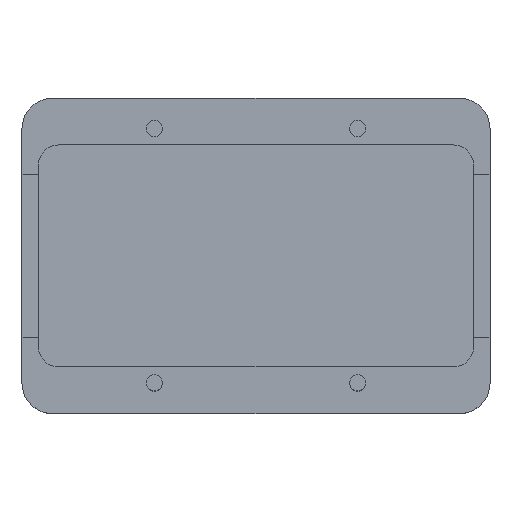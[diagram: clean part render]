
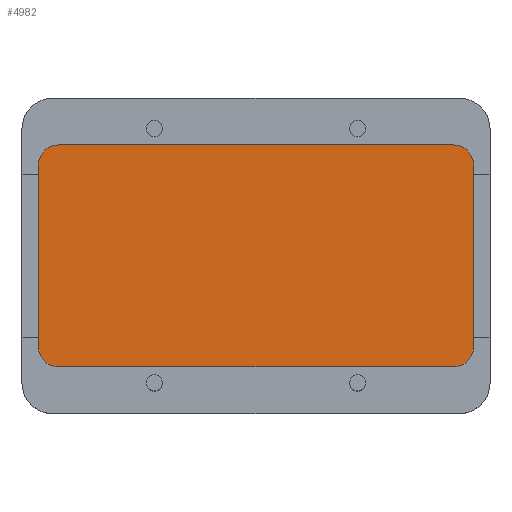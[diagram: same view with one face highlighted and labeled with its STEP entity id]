
A CAD part, top view. The second image highlights one B-rep face of the part: STEP entity #4982.
In plain terms, the highlighted planar face has unit normal (0, 0, 1).
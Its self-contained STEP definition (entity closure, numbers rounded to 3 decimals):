
#4907=CARTESIAN_POINT('',(-9.7,4.45,22.9));
#4908=DIRECTION('',(0.0,0.0,-1.0));
#4909=DIRECTION('',(-1.0,0.0,0.0));
#4910=AXIS2_PLACEMENT_3D('',#4907,#4908,#4909);
#4911=PLANE('',#4910);
#4912=CARTESIAN_POINT('',(-10.7,-4.45,22.9));
#4913=VERTEX_POINT('',#4912);
#4914=CARTESIAN_POINT('',(-10.7,4.45,22.9));
#4915=VERTEX_POINT('',#4914);
#4916=CARTESIAN_POINT('',(-10.7,-4.45,22.9));
#4917=DIRECTION('',(0.0,1.0,0.0));
#4918=VECTOR('',#4917,8.9);
#4919=LINE('',#4916,#4918);
#4920=EDGE_CURVE('',#4913,#4915,#4919,.T.);
#4921=ORIENTED_EDGE('',*,*,#4920,.F.);
#4922=CARTESIAN_POINT('',(-9.7,-5.45,22.9));
#4923=VERTEX_POINT('',#4922);
#4924=CARTESIAN_POINT('',(-9.7,-4.45,22.9));
#4925=DIRECTION('',(0.0,0.0,-1.0));
#4926=DIRECTION('',(-0.707,-0.707,0.0));
#4927=AXIS2_PLACEMENT_3D('',#4924,#4925,#4926);
#4928=CIRCLE('',#4927,1.0);
#4929=EDGE_CURVE('',#4923,#4913,#4928,.T.);
#4930=ORIENTED_EDGE('',*,*,#4929,.F.);
#4931=CARTESIAN_POINT('',(9.7,-5.45,22.9));
#4932=VERTEX_POINT('',#4931);
#4933=CARTESIAN_POINT('',(9.7,-5.45,22.9));
#4934=DIRECTION('',(-1.0,0.0,0.0));
#4935=VECTOR('',#4934,19.4);
#4936=LINE('',#4933,#4935);
#4937=EDGE_CURVE('',#4932,#4923,#4936,.T.);
#4938=ORIENTED_EDGE('',*,*,#4937,.F.);
#4939=CARTESIAN_POINT('',(10.7,-4.45,22.9));
#4940=VERTEX_POINT('',#4939);
#4941=CARTESIAN_POINT('',(9.7,-4.45,22.9));
#4942=DIRECTION('',(0.0,0.0,-1.0));
#4943=DIRECTION('',(0.707,-0.707,0.0));
#4944=AXIS2_PLACEMENT_3D('',#4941,#4942,#4943);
#4945=CIRCLE('',#4944,1.0);
#4946=EDGE_CURVE('',#4940,#4932,#4945,.T.);
#4947=ORIENTED_EDGE('',*,*,#4946,.F.);
#4948=CARTESIAN_POINT('',(10.7,4.45,22.9));
#4949=VERTEX_POINT('',#4948);
#4950=CARTESIAN_POINT('',(10.7,4.45,22.9));
#4951=DIRECTION('',(0.0,-1.0,0.0));
#4952=VECTOR('',#4951,8.9);
#4953=LINE('',#4950,#4952);
#4954=EDGE_CURVE('',#4949,#4940,#4953,.T.);
#4955=ORIENTED_EDGE('',*,*,#4954,.F.);
#4956=CARTESIAN_POINT('',(9.7,5.45,22.9));
#4957=VERTEX_POINT('',#4956);
#4958=CARTESIAN_POINT('',(9.7,4.45,22.9));
#4959=DIRECTION('',(0.0,0.0,-1.0));
#4960=DIRECTION('',(0.707,0.707,0.0));
#4961=AXIS2_PLACEMENT_3D('',#4958,#4959,#4960);
#4962=CIRCLE('',#4961,1.0);
#4963=EDGE_CURVE('',#4957,#4949,#4962,.T.);
#4964=ORIENTED_EDGE('',*,*,#4963,.F.);
#4965=CARTESIAN_POINT('',(-9.7,5.45,22.9));
#4966=VERTEX_POINT('',#4965);
#4967=CARTESIAN_POINT('',(-9.7,5.45,22.9));
#4968=DIRECTION('',(1.0,0.0,0.0));
#4969=VECTOR('',#4968,19.4);
#4970=LINE('',#4967,#4969);
#4971=EDGE_CURVE('',#4966,#4957,#4970,.T.);
#4972=ORIENTED_EDGE('',*,*,#4971,.F.);
#4973=CARTESIAN_POINT('',(-9.7,4.45,22.9));
#4974=DIRECTION('',(0.0,0.0,-1.0));
#4975=DIRECTION('',(-0.707,0.707,0.0));
#4976=AXIS2_PLACEMENT_3D('',#4973,#4974,#4975);
#4977=CIRCLE('',#4976,1.0);
#4978=EDGE_CURVE('',#4915,#4966,#4977,.T.);
#4979=ORIENTED_EDGE('',*,*,#4978,.F.);
#4980=EDGE_LOOP('',(#4921,#4930,#4938,#4947,#4955,#4964,#4972,#4979));
#4981=FACE_OUTER_BOUND('',#4980,.T.);
#4982=ADVANCED_FACE('',(#4981),#4911,.F.);
